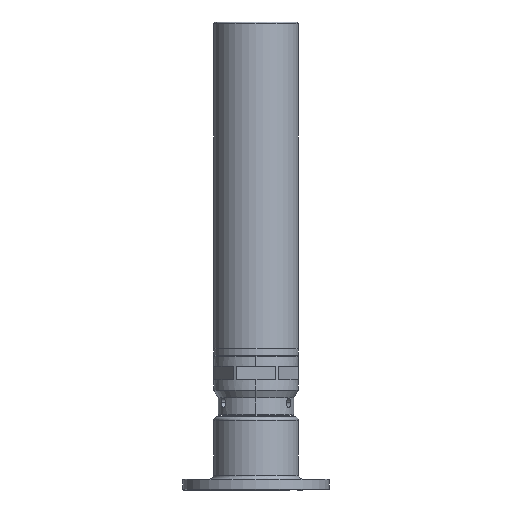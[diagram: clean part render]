
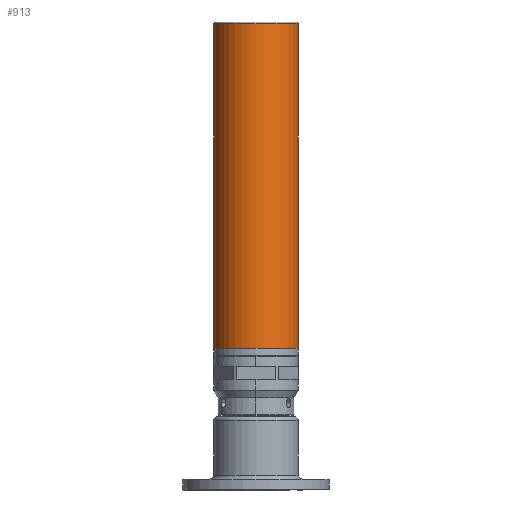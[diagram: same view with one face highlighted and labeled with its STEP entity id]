
A CAD part, front view. The second image highlights one B-rep face of the part: STEP entity #913.
In plain terms, the highlighted cylindrical face has radius 18.288 mm (diameter 36.576 mm), a partial arc.
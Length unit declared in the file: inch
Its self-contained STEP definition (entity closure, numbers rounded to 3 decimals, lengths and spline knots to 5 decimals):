
#913 = ADVANCED_FACE ( 'NONE', ( #15883 ), #7365, .T. ) ;
#1105 = DIRECTION ( 'NONE',  ( 1., 0., 0. ) ) ;
#1675 = EDGE_CURVE ( 'NONE', #13733, #8422, #2364, .T. ) ;
#2364 = CIRCLE ( 'NONE', #16538, 0.72 ) ;
#3203 = CARTESIAN_POINT ( 'NONE',  ( 0.72, 0., 7.955 ) ) ;
#4232 = LINE ( 'NONE', #31808, #24028 ) ;
#4567 = DIRECTION ( 'NONE',  ( 0., 0., 1. ) ) ;
#4903 = CARTESIAN_POINT ( 'NONE',  ( 0., 0., 7.955 ) ) ;
#6770 = ORIENTED_EDGE ( 'NONE', *, *, #1675, .T. ) ;
#7071 = CARTESIAN_POINT ( 'NONE',  ( 0., 0., 2.415 ) ) ;
#7365 = CYLINDRICAL_SURFACE ( 'NONE', #25425, 0.72 ) ;
#8244 = AXIS2_PLACEMENT_3D ( 'NONE', #4903, #19075, #13845 ) ;
#8422 = VERTEX_POINT ( 'NONE', #23749 ) ;
#9060 = VERTEX_POINT ( 'NONE', #21273 ) ;
#10628 = ORIENTED_EDGE ( 'NONE', *, *, #29002, .T. ) ;
#10848 = LINE ( 'NONE', #12399, #30616 ) ;
#11306 = VERTEX_POINT ( 'NONE', #3203 ) ;
#11391 = ORIENTED_EDGE ( 'NONE', *, *, #15155, .F. ) ;
#12399 = CARTESIAN_POINT ( 'NONE',  ( -0.72, 0., 2.415 ) ) ;
#13122 = EDGE_CURVE ( 'NONE', #11306, #9060, #29859, .T. ) ;
#13733 = VERTEX_POINT ( 'NONE', #16395 ) ;
#13845 = DIRECTION ( 'NONE',  ( 1., 0., 0. ) ) ;
#14621 = DIRECTION ( 'NONE',  ( 0., 0., 1. ) ) ;
#15155 = EDGE_CURVE ( 'NONE', #13733, #9060, #10848, .T. ) ;
#15883 = FACE_OUTER_BOUND ( 'NONE', #17649, .T. ) ;
#16395 = CARTESIAN_POINT ( 'NONE',  ( -0.72, 0., 2.415 ) ) ;
#16538 = AXIS2_PLACEMENT_3D ( 'NONE', #18148, #18267, #1105 ) ;
#17649 = EDGE_LOOP ( 'NONE', ( #11391, #6770, #10628, #23767 ) ) ;
#18148 = CARTESIAN_POINT ( 'NONE',  ( 0., 0., 2.415 ) ) ;
#18267 = DIRECTION ( 'NONE',  ( 0., 0., 1. ) ) ;
#19075 = DIRECTION ( 'NONE',  ( 0., 0., -1. ) ) ;
#21269 = DIRECTION ( 'NONE',  ( 1., 0., 0. ) ) ;
#21273 = CARTESIAN_POINT ( 'NONE',  ( -0.72, 0., 7.955 ) ) ;
#23749 = CARTESIAN_POINT ( 'NONE',  ( 0.72, 0., 2.415 ) ) ;
#23767 = ORIENTED_EDGE ( 'NONE', *, *, #13122, .T. ) ;
#24028 = VECTOR ( 'NONE', #14621, 39.37008 ) ;
#25425 = AXIS2_PLACEMENT_3D ( 'NONE', #7071, #27189, #21269 ) ;
#27189 = DIRECTION ( 'NONE',  ( 0., 0., 1. ) ) ;
#29002 = EDGE_CURVE ( 'NONE', #8422, #11306, #4232, .T. ) ;
#29859 = CIRCLE ( 'NONE', #8244, 0.72 ) ;
#30616 = VECTOR ( 'NONE', #4567, 39.37008 ) ;
#31808 = CARTESIAN_POINT ( 'NONE',  ( 0.72, 0., 2.415 ) ) ;
